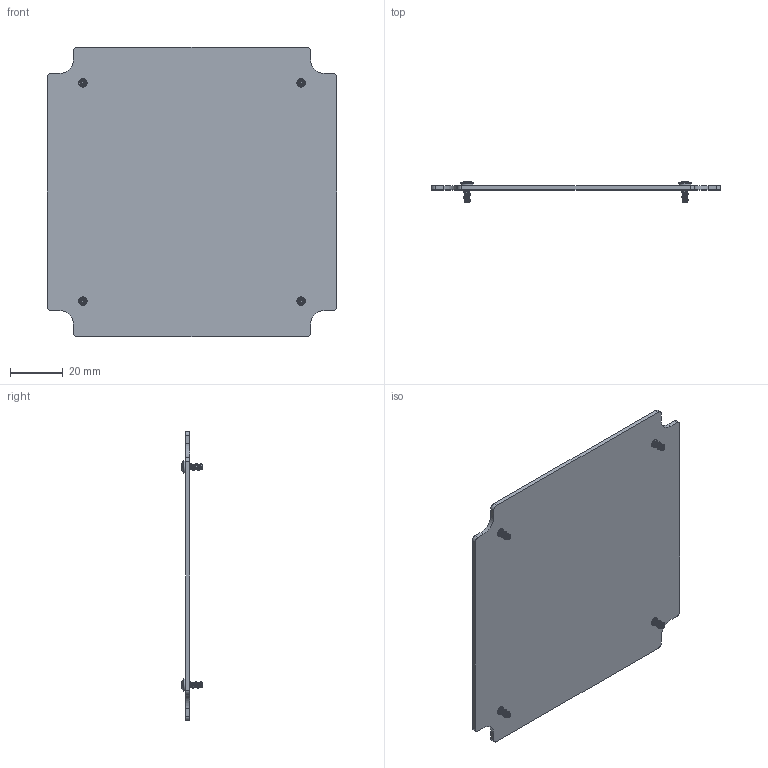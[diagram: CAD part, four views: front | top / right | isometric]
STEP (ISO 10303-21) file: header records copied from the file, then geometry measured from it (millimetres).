
FILE_DESCRIPTION (( 'STEP AP214' ), '1' );
FILE_NAME ('DC-44K.STEP', '2013-06-18T14:58:44', ( 'Designer2010' ), ( '' ), 'SwSTEP 2.0', 'SolidWorks 2013', '' );
FILE_SCHEMA (( 'AUTOMOTIVE_DESIGN' ));
Length unit declared in the file: inch
Products named in the file (3): SCREWS-MBR; DC-44B-P_DC-44-P; DC-44K
Assembly tree (5 placements, depth 2):
  DC-44K
    DC-44B-P_DC-44-P
    SCREWS-MBR  x4
Bounding box: 109.53 x 7.99 x 109.53 mm (x, y, z)
Volume: 18564.5 mm3; surface area: 24404.5 mm2
Topology: 5 solids, 5 shells, 622 faces, 1472 edges, 836 vertices
Faces by surface type: cylinder 188, torus 144, bspline 104, plane 98, sphere 72, cone 16
Entity records: 9864 total; most frequent: CARTESIAN_POINT 5558, DIRECTION 889, ORIENTED_EDGE 864, EDGE_CURVE 432, AXIS2_PLACEMENT_3D 378, VERTEX_POINT 257, CIRCLE 215, EDGE_LOOP 191
